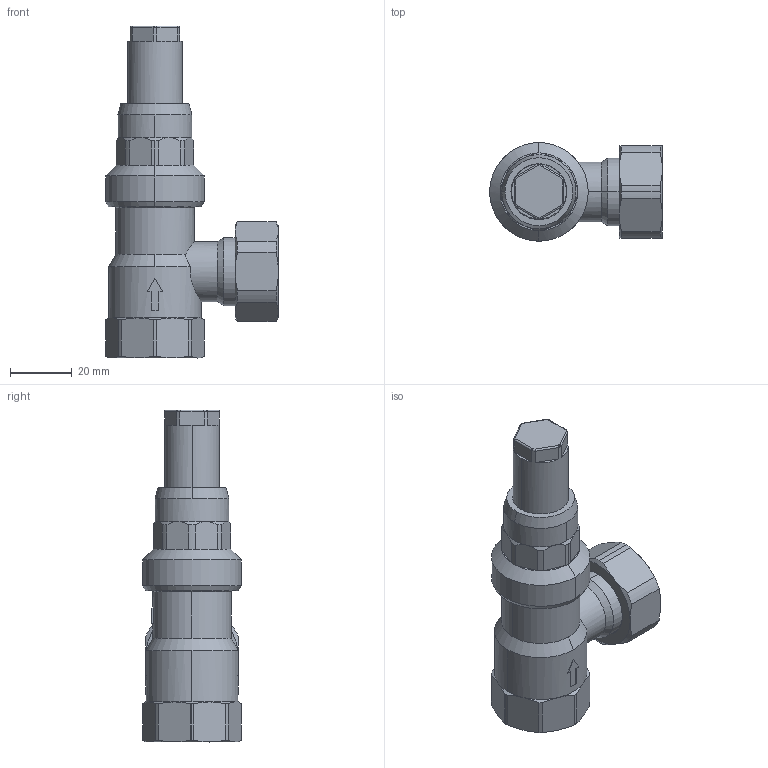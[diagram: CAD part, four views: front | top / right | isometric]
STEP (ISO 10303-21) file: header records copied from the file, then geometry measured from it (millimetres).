
FILE_DESCRIPTION (( 'STEP AP214' ), '1' );
FILE_NAME ('42379.STEP', '2022-05-23T06:36:51', ( '' ), ( '' ), 'SwSTEP 2.0', 'SolidWorks 2021', '' );
FILE_SCHEMA (( 'AUTOMOTIVE_DESIGN' ));
Length unit declared in the file: millimetre
Products named in the file (16): GEH_X_C4USE_05 00 350441; 001_000X_05 07 000331; _X_DCBERSTR_X_D6MVENTIL; DIN 13-M20x1,5_2; DIN 13-M20x1,5; G 3_4; _X_DCBERWURFMUTTER_05 00 350444; SPINDEL_05 00 350543; DIN 13-M28x1,5_2; 42379; DIN 13-M28x1,5; _X_02
Assembly tree (15 placements, depth 4):
  42379
    _X_DCBERSTR_X_D6MVENTIL
      001_000X_05 07 000331
        001_000X_05 07 000331
        _X_02
      _X_DCBERWURFMUTTER_05 00 350444
        _X_DCBERWURFMUTTER_05 00 350444
        DIN 13-M28x1,5
        DIN 13-M20x1,5
      SPINDEL_05 00 350543
        SPINDEL_05 00 350543
        DIN 13-M20x1,5_2
      GEH_X_C4USE_05 00 350441
        GEH_X_C4USE_05 00 350441
        DIN 13-M28x1,5_2
        G 3_4
Bounding box: 56.05 x 32 x 107.7 mm (x, y, z)
Volume: 42659.3 mm3; surface area: 36207.2 mm2
Topology: 10 solids, 10 shells, 351 faces, 827 edges, 503 vertices
Faces by surface type: plane 118, cylinder 116, cone 91, bspline 26
Entity records: 16375 total; most frequent: CARTESIAN_POINT 3946, DIRECTION 1757, ORIENTED_EDGE 1654, EDGE_CURVE 827, AXIS2_PLACEMENT_3D 719, VERTEX_POINT 503, UNCERTAINTY_MEASURE_WITH_UNIT 387, EDGE_LOOP 378
